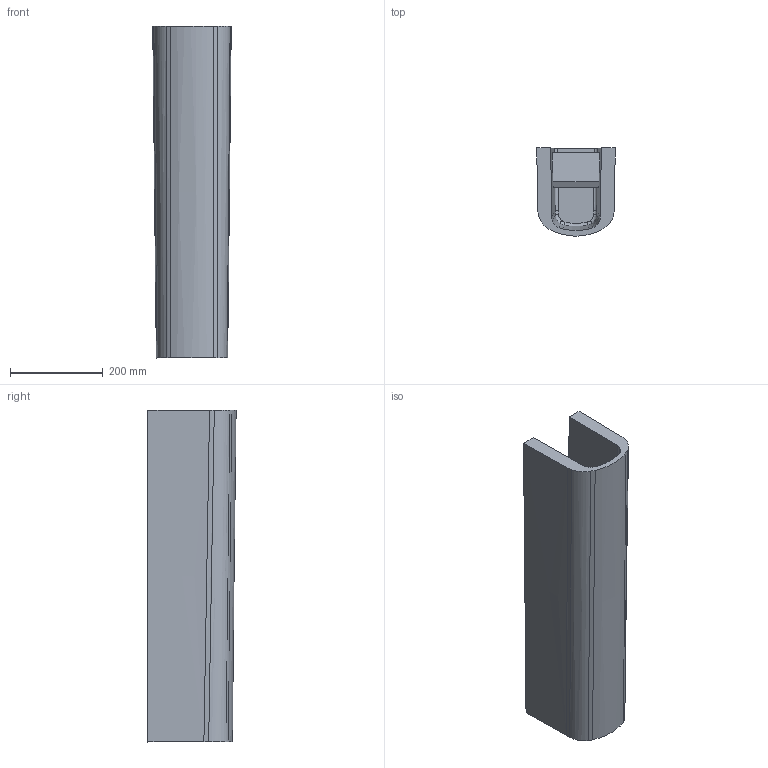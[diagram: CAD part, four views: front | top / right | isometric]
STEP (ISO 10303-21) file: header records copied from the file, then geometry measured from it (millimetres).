
FILE_DESCRIPTION(/* description */ (''),/* implementation_level */ '2;1');
FILE_NAME(/* name */ '085842',/* time_stamp */ '2021-06-21T09:09:16+02:00',/* author */ (''),/* organization */ (''),/* preprocessor_version */ 'ST-DEVELOPER v15',/* originating_system */ '',/* authorisation */ '');
FILE_SCHEMA (('AUTOMOTIVE_DESIGN'));
Length unit declared in the file: millimetre
Products named in the file (1): Document
Bounding box: 169.08 x 189.97 x 715 mm (x, y, z)
Volume: 8733477.7 mm3; surface area: 744952.4 mm2
Topology: 1 solids, 1 shells, 35 faces, 91 edges, 58 vertices
Faces by surface type: bspline 29, plane 6
Entity records: 3571 total; most frequent: CARTESIAN_POINT 2968, ORIENTED_EDGE 182, EDGE_CURVE 91, B_SPLINE_CURVE_WITH_KNOTS 91, VERTEX_POINT 58, EDGE_LOOP 37, ADVANCED_FACE 35, FACE_OUTER_BOUND 35
